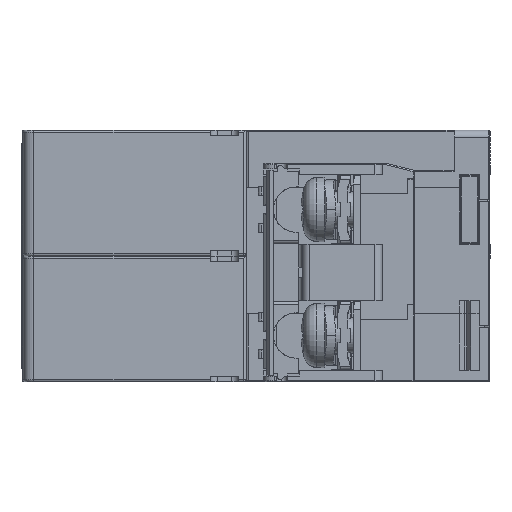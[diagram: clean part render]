
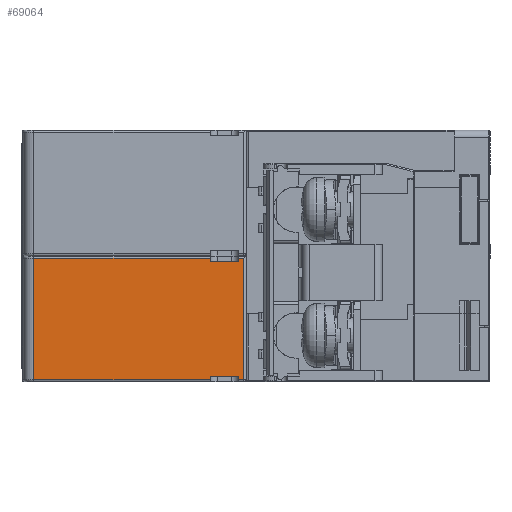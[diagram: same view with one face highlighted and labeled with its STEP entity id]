
A CAD part, left-side view. The second image highlights one B-rep face of the part: STEP entity #69064.
In plain terms, the highlighted planar face has unit normal (-1, 0, 0) as drawn and (1, 0, 0) by its records, which use the part's own axes.
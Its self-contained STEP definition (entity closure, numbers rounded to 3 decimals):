
#1396 = DIRECTION ( 'NONE',  ( 0., -1., 0. ) ) ;
#2019 = VERTEX_POINT ( 'NONE', #13962 ) ;
#2151 = CARTESIAN_POINT ( 'NONE',  ( 4.8, 1., 8.05 ) ) ;
#4871 = DIRECTION ( 'NONE',  ( 0., 0., -1. ) ) ;
#5723 = EDGE_CURVE ( 'NONE', #20478, #23461, #98892, .T. ) ;
#5893 = VECTOR ( 'NONE', #37034, 1000. ) ;
#6670 = VERTEX_POINT ( 'NONE', #44106 ) ;
#7378 = LINE ( 'NONE', #64185, #12869 ) ;
#8240 = CARTESIAN_POINT ( 'NONE',  ( 4.8, 5., -8.45 ) ) ;
#10593 = CARTESIAN_POINT ( 'NONE',  ( 4.8, 1., -8.05 ) ) ;
#10793 = PLANE ( 'NONE',  #12992 ) ;
#12041 = DIRECTION ( 'NONE',  ( 0., 1., 0. ) ) ;
#12869 = VECTOR ( 'NONE', #56535, 1000. ) ;
#12992 = AXIS2_PLACEMENT_3D ( 'NONE', #87765, #105212, #97244 ) ;
#13962 = CARTESIAN_POINT ( 'NONE',  ( 4.8, 0.3, 8.45 ) ) ;
#14146 = ORIENTED_EDGE ( 'NONE', *, *, #71765, .T. ) ;
#15089 = VECTOR ( 'NONE', #1396, 1000. ) ;
#16338 = DIRECTION ( 'NONE',  ( 0., -1., 0. ) ) ;
#16677 = DIRECTION ( 'NONE',  ( 0., -1., 0. ) ) ;
#19946 = ORIENTED_EDGE ( 'NONE', *, *, #53193, .T. ) ;
#20412 = ORIENTED_EDGE ( 'NONE', *, *, #36722, .T. ) ;
#20478 = VERTEX_POINT ( 'NONE', #10593 ) ;
#21168 = VECTOR ( 'NONE', #69652, 1000. ) ;
#23461 = VERTEX_POINT ( 'NONE', #35016 ) ;
#23604 = CARTESIAN_POINT ( 'NONE',  ( 4.8, 29.5, 8.75 ) ) ;
#25931 = ORIENTED_EDGE ( 'NONE', *, *, #66004, .F. ) ;
#26023 = LINE ( 'NONE', #68253, #93958 ) ;
#26709 = CARTESIAN_POINT ( 'NONE',  ( 4.8, 0., 8.45 ) ) ;
#27771 = LINE ( 'NONE', #76272, #111889 ) ;
#31256 = EDGE_CURVE ( 'NONE', #100131, #112210, #99518, .T. ) ;
#31722 = CARTESIAN_POINT ( 'NONE',  ( 4.8, 0.3, 8.75 ) ) ;
#32996 = DIRECTION ( 'NONE',  ( 0., 0., 1. ) ) ;
#33344 = DIRECTION ( 'NONE',  ( 0., 0., -1. ) ) ;
#33421 = LINE ( 'NONE', #23604, #98729 ) ;
#35016 = CARTESIAN_POINT ( 'NONE',  ( 4.8, 1., -8.45 ) ) ;
#35275 = ORIENTED_EDGE ( 'NONE', *, *, #71323, .T. ) ;
#36722 = EDGE_CURVE ( 'NONE', #112210, #50074, #33421, .T. ) ;
#37034 = DIRECTION ( 'NONE',  ( 0., 1., 0. ) ) ;
#37755 = VECTOR ( 'NONE', #33344, 1000. ) ;
#38750 = EDGE_CURVE ( 'NONE', #50074, #76625, #26023, .T. ) ;
#39502 = CARTESIAN_POINT ( 'NONE',  ( 4.8, 5., 8.45 ) ) ;
#40122 = LINE ( 'NONE', #79180, #21168 ) ;
#43281 = ORIENTED_EDGE ( 'NONE', *, *, #74348, .T. ) ;
#44106 = CARTESIAN_POINT ( 'NONE',  ( 4.8, 5., -8.05 ) ) ;
#47272 = VECTOR ( 'NONE', #48886, 1000. ) ;
#48030 = CARTESIAN_POINT ( 'NONE',  ( 4.8, 1., 8.45 ) ) ;
#48548 = CARTESIAN_POINT ( 'NONE',  ( 4.8, 29.5, 8.45 ) ) ;
#48886 = DIRECTION ( 'NONE',  ( 0., 0., -1. ) ) ;
#49131 = CARTESIAN_POINT ( 'NONE',  ( 4.8, 29.5, -8.45 ) ) ;
#50074 = VERTEX_POINT ( 'NONE', #48548 ) ;
#53193 = EDGE_CURVE ( 'NONE', #6670, #100131, #63653, .T. ) ;
#55118 = LINE ( 'NONE', #77060, #75519 ) ;
#56535 = DIRECTION ( 'NONE',  ( 0., 0., 1. ) ) ;
#58495 = ORIENTED_EDGE ( 'NONE', *, *, #84932, .F. ) ;
#61731 = ORIENTED_EDGE ( 'NONE', *, *, #82983, .T. ) ;
#63176 = CARTESIAN_POINT ( 'NONE',  ( 4.8, 5., 8.05 ) ) ;
#63653 = LINE ( 'NONE', #73623, #47272 ) ;
#63745 = EDGE_LOOP ( 'NONE', ( #101342, #61731, #35275, #43281, #14146, #108499, #25931, #19946, #101681, #20412, #96103, #58495 ) ) ;
#63824 = LINE ( 'NONE', #31722, #93749 ) ;
#64185 = CARTESIAN_POINT ( 'NONE',  ( 4.8, 5., 8.05 ) ) ;
#66004 = EDGE_CURVE ( 'NONE', #6670, #20478, #27771, .T. ) ;
#67956 = LINE ( 'NONE', #26709, #15089 ) ;
#68253 = CARTESIAN_POINT ( 'NONE',  ( 4.8, 0., 8.45 ) ) ;
#69064 = ADVANCED_FACE ( 'NONE', ( #92657 ), #10793, .F. ) ;
#69247 = CARTESIAN_POINT ( 'NONE',  ( 4.8, 5., 8.05 ) ) ;
#69652 = DIRECTION ( 'NONE',  ( 0., 1., 0. ) ) ;
#71323 = EDGE_CURVE ( 'NONE', #85525, #2019, #67956, .T. ) ;
#71765 = EDGE_CURVE ( 'NONE', #79171, #23461, #40122, .T. ) ;
#71909 = EDGE_CURVE ( 'NONE', #108412, #76218, #106735, .T. ) ;
#73623 = CARTESIAN_POINT ( 'NONE',  ( 4.8, 5., -8.05 ) ) ;
#74348 = EDGE_CURVE ( 'NONE', #2019, #79171, #63824, .T. ) ;
#75519 = VECTOR ( 'NONE', #86122, 1000. ) ;
#76218 = VERTEX_POINT ( 'NONE', #69247 ) ;
#76272 = CARTESIAN_POINT ( 'NONE',  ( 4.8, 5., -8.05 ) ) ;
#76625 = VERTEX_POINT ( 'NONE', #39502 ) ;
#77060 = CARTESIAN_POINT ( 'NONE',  ( 4.8, 1., 8.05 ) ) ;
#79171 = VERTEX_POINT ( 'NONE', #99734 ) ;
#79180 = CARTESIAN_POINT ( 'NONE',  ( 4.8, 29.5, -8.45 ) ) ;
#82983 = EDGE_CURVE ( 'NONE', #108412, #85525, #55118, .T. ) ;
#83646 = VECTOR ( 'NONE', #12041, 1000. ) ;
#84932 = EDGE_CURVE ( 'NONE', #76218, #76625, #7378, .T. ) ;
#85525 = VERTEX_POINT ( 'NONE', #48030 ) ;
#86122 = DIRECTION ( 'NONE',  ( 0., 0., 1. ) ) ;
#87765 = CARTESIAN_POINT ( 'NONE',  ( 4.8, 0., 8.75 ) ) ;
#92657 = FACE_OUTER_BOUND ( 'NONE', #63745, .T. ) ;
#93749 = VECTOR ( 'NONE', #4871, 1000. ) ;
#93958 = VECTOR ( 'NONE', #16338, 1000. ) ;
#96103 = ORIENTED_EDGE ( 'NONE', *, *, #38750, .T. ) ;
#97244 = DIRECTION ( 'NONE',  ( 0., 0., 1. ) ) ;
#98729 = VECTOR ( 'NONE', #32996, 1000. ) ;
#98892 = LINE ( 'NONE', #102084, #37755 ) ;
#99518 = LINE ( 'NONE', #107616, #5893 ) ;
#99734 = CARTESIAN_POINT ( 'NONE',  ( 4.8, 0.3, -8.45 ) ) ;
#100131 = VERTEX_POINT ( 'NONE', #8240 ) ;
#101342 = ORIENTED_EDGE ( 'NONE', *, *, #71909, .F. ) ;
#101681 = ORIENTED_EDGE ( 'NONE', *, *, #31256, .T. ) ;
#102084 = CARTESIAN_POINT ( 'NONE',  ( 4.8, 1., -8.05 ) ) ;
#105212 = DIRECTION ( 'NONE',  ( -1., 0., 0. ) ) ;
#106735 = LINE ( 'NONE', #63176, #83646 ) ;
#107616 = CARTESIAN_POINT ( 'NONE',  ( 4.8, 29.5, -8.45 ) ) ;
#108412 = VERTEX_POINT ( 'NONE', #2151 ) ;
#108499 = ORIENTED_EDGE ( 'NONE', *, *, #5723, .F. ) ;
#111889 = VECTOR ( 'NONE', #16677, 1000. ) ;
#112210 = VERTEX_POINT ( 'NONE', #49131 ) ;
